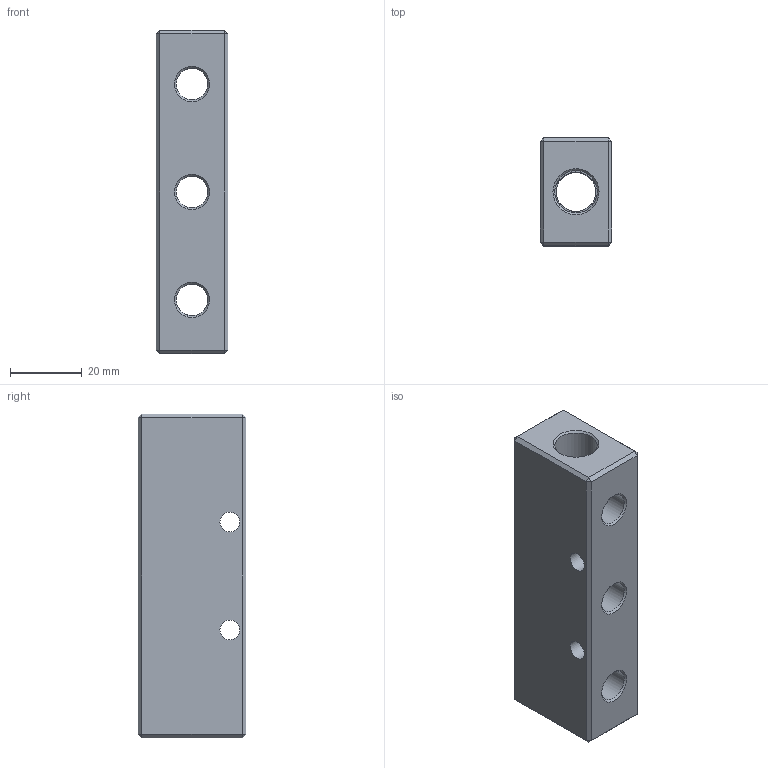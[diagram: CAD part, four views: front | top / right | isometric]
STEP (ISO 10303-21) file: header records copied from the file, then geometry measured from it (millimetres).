
FILE_DESCRIPTION(/* description */ (''),/* implementation_level */ '2;1');
FILE_NAME(/* name */ 'BXH90 2B2 06B1.stp',/* time_stamp */ '2024-11-19T12:32:13+01:00',/* author */ ('freju'),/* organization */ (''),/* preprocessor_version */ 'ST-DEVELOPER v20',/* originating_system */ 'Autodesk Inventor 2025',/* authorisation */ '');
FILE_SCHEMA (('AUTOMOTIVE_DESIGN { 1 0 10303 214 3 1 1 }'));
Length unit declared in the file: millimetre
Products named in the file (1): BXH90 2B2 06B1
Bounding box: 20 x 30 x 90 mm (x, y, z)
Volume: 40246.1 mm3; surface area: 14347.1 mm2
Topology: 1 solids, 1 shells, 47 faces, 102 edges, 59 vertices
Faces by surface type: plane 28, cylinder 11, cone 8
Full cylindrical faces by diameter (mm): 5.5 x2, 8.8 x6, 11 x1, 11.8 x2
Entity records: 1562 total; most frequent: CARTESIAN_POINT 455, DIRECTION 221, ORIENTED_EDGE 204, EDGE_CURVE 102, AXIS2_PLACEMENT_3D 77, EDGE_LOOP 67, LINE 67, VECTOR 67
